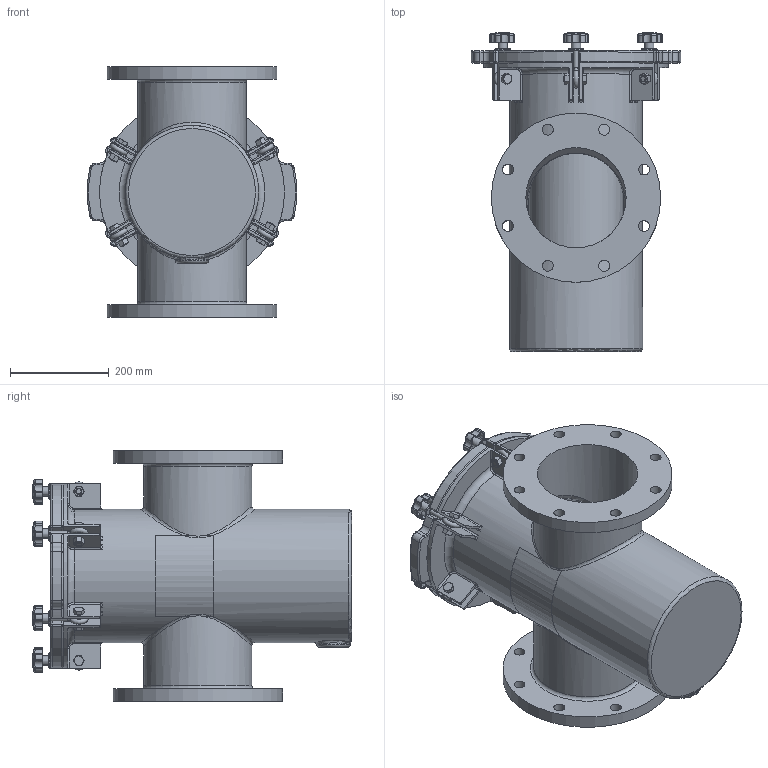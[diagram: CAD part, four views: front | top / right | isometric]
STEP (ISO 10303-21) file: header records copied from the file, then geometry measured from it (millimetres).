
FILE_DESCRIPTION(/* description */ ('STRAINER BODY'),/* implementation_level */ '2;1');
FILE_NAME(/* name */ '\\chntshnas1\IP_PUMPS\NeptuneBenson\Project Execution\WIP\Ready for delivery - Do not Disturb -Updated with metric Flange\Workspace\FG Straight Strainer\1500NBFG08R1.stp',/* time_stamp */ '2016-10-18T19:38:36+05:00',/* author */ ('20076253'),/* organization */ (''),/* preprocessor_version */ 'ST-DEVELOPER v16.1',/* originating_system */ 'Autodesk Inventor 2016',/* authorisation */ '');
FILE_SCHEMA (('AUTOMOTIVE_DESIGN { 1 0 10303 214 3 1 1 }'));
Length unit declared in the file: inch
Products named in the file (18): NBFG08BODYR1; 150NBCVR48R1; 150NBGSK48R1; Perforated Basket 10in; Bride (Ring) 10in; Baffle 10in; Handle 10in; Bottom Strainer 10in; NBBSK08T316; Nut- 1_2  UNC; Bolt-1_2 x 1 1_2  UNC; EyeBolt; Washer; Knob M10; Securing Assembly For FG without Brace; Label for 10.625 inch (Right); Label for 10.625 inch (Left); Guardian FG H&L Strainer (Inch)
Assembly tree (22 placements, depth 3):
  Guardian FG H&L Strainer (Inch)
    NBFG08BODYR1
    150NBCVR48R1
    150NBGSK48R1
    NBBSK08T316
      Perforated Basket 10in
      Bride (Ring) 10in
      Baffle 10in
      Handle 10in
      Bottom Strainer 10in
    Securing Assembly For FG without Brace  x6
      Nut- 1_2  UNC
      Bolt-1_2 x 1 1_2  UNC
      EyeBolt
      Washer
      Knob M10
    Label for 10.625 inch (Right)
    Label for 10.625 inch (Left)
Bounding box: 424.18 x 646.2 x 508 mm (x, y, z)
Volume: 12390410 mm3; surface area: 2874348.9 mm2
Topology: 40 solids, 40 shells, 1276 faces, 2922 edges, 1726 vertices
Faces by surface type: cylinder 466, plane 330, cone 138, torus 125, bspline 115, sphere 102
Full cylindrical faces by diameter (mm): 3.175 x10, 6.35 x1, 8.382 x6, 9.525 x12, 10.592 x6, 12.7 x6, 15.875 x12, 19 x12, 19.05 x6, 22.225 x16, 22.809 x1, 31.75 x6, 187.325 x2, 190.5 x1, 193.04 x1, 203.2 x2, 219.075 x2, 254 x2, 266.7 x1, 269.875 x1, 276.225 x1, 311.15 x1, 317.5 x1, 342.9 x2
Entity records: 26124 total; most frequent: CARTESIAN_POINT 10062, DIRECTION 3316, ORIENTED_EDGE 3018, EDGE_CURVE 1509, AXIS2_PLACEMENT_3D 1402, VERTEX_POINT 955, EDGE_LOOP 862, CIRCLE 709
